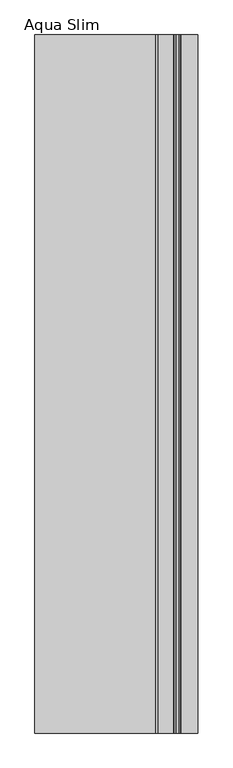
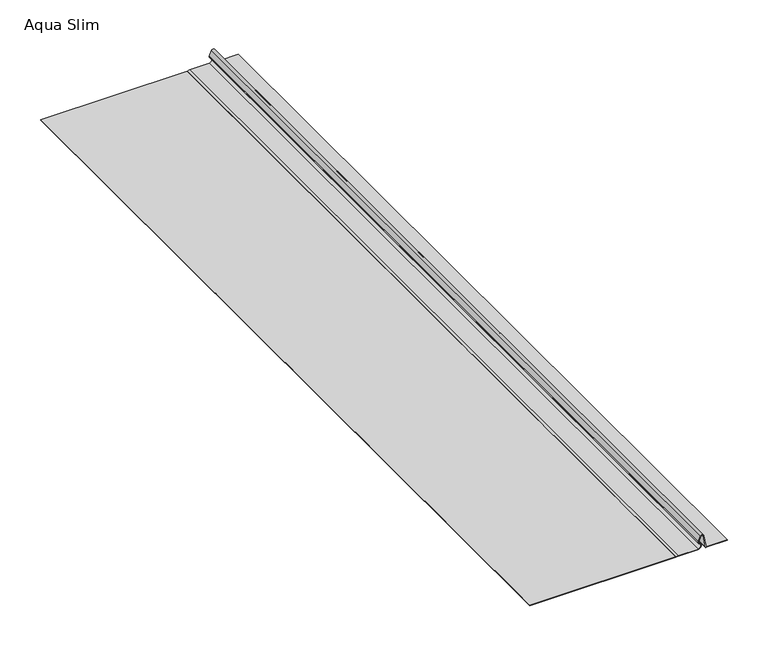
"""IFC4 building model written with IfcOpenShell, lengths in millimetres: proxy geometry, AQUAPLAST - Panel Dachowy i Elewacyjny Aqua Slim : Aqua Slim."""

from ifc_helpers import new_model, si_unit, point, frame, frame_2d, origin, origin_with_axes, place, context, project, spatial, polyline, circle_curve, trimmed, segment, composite_curve, outline, extrude, source, transform, mapped, element, save


def aqua_slim_f305789a(model_context):
    return source(origin(), model_context, "Body", "SweptSolid", [
        extrude(outline(composite_curve([segment(polyline([(0.8, 168.4), (0.8, 138.958412)]), True, "CONTINUOUS"), segment(trimmed(circle_curve(frame_2d((1.4640676, 138.958412)), 0.6640676), [point((0.8, 138.958412))], [point((1.3501315, 138.3041916))], True, "CARTESIAN"), True, "CONTINUOUS"), segment(polyline([(1.3501315, 138.3041916), (18.7653554, 135.2712349)]), True, "CONTINUOUS"), segment(trimmed(circle_curve(frame_2d((18.1818617, 132.6281389)), 2.7067363), [point((18.7653554, 135.2712349))], [point((19.5352298, 130.2840366))], False, "CARTESIAN"), True, "CONTINUOUS"), segment(polyline([(19.5352298, 130.2840366), (12.1941629, 127.3237764)]), True, "CONTINUOUS"), segment(trimmed(circle_curve(frame_2d((11.2676679, 129.6213657)), 2.4773594), [point((12.1941629, 127.3237764))], [point((9.0024093, 128.6184133))], False, "CARTESIAN"), True, "CONTINUOUS"), segment(trimmed(circle_curve(frame_2d((5.4667311, 127.0529775)), 3.8667311), [point((9.0024093, 128.6184133))], [point((1.6, 127.0529775))], True, "CARTESIAN"), True, "CONTINUOUS"), segment(polyline([(1.6, 127.0529775), (1.6, 99.2000503), (0.8, 95.7000503), (0.0, 95.7000503), (0.8, 99.2000503), (0.8, 126.8938021)]), True, "CONTINUOUS"), segment(trimmed(circle_curve(frame_2d((5.5014361, 126.8938021)), 4.7014361), [point((0.8, 126.8938021))], [point((9.7513874, 128.9041293))], False, "CARTESIAN"), True, "CONTINUOUS"), segment(trimmed(circle_curve(frame_2d((11.2676679, 129.6213657)), 1.6773594), [point((9.7513874, 128.9041293))], [point((11.8934079, 128.0650932))], True, "CARTESIAN"), True, "CONTINUOUS"), segment(polyline([(11.8934079, 128.0650932), (19.1352298, 130.9768569)]), True, "CONTINUOUS"), segment(trimmed(circle_curve(frame_2d((18.1818617, 132.6281389)), 1.9067363), [point((19.1352298, 130.9768569))], [point((18.4803326, 134.5113697))], True, "CARTESIAN"), True, "CONTINUOUS"), segment(polyline([(18.4803326, 134.5113697), (0.6241817, 137.3413691)]), True, "CONTINUOUS"), segment(trimmed(circle_curve(frame_2d((0.7400208, 138.0722673)), 0.7400208), [point((0.6241817, 137.3413691))], [point((0.0, 138.0722673))], False, "CARTESIAN"), True, "CONTINUOUS"), segment(polyline([(0.0, 138.0722673), (0.0, 168.4), (0.8, 168.4)]), True, "CONTINUOUS")], self_intersect=False)), frame((0.0, 0.0, 0.0), z_axis=(0.0, 1.0, 0.0), x_axis=(0.0, 0.0, 1.0)), (0.0, 0.0, 1.0), 1200.0),
        extrude(outline(polyline([(95.7000503, 1200.0), (95.7000503, 0.0), (-111.6, 0.0), (-111.6, 1200.0), (95.7000503, 1200.0)])), origin_with_axes(), (0.0, 0.0, 1.0), 0.8),
    ])


if __name__ == "__main__":
    model = new_model("IFC4")
    model_context = context("Model", 3, world=origin())
    ifc_project = project(units=[si_unit("LENGTHUNIT", "METRE", prefix="MILLI")], contexts=[model_context])
    site = spatial("IfcSite", under=ifc_project)
    building = spatial("IfcBuilding", under=site)
    placement = place(None, origin())
    aqua_slim_shape = aqua_slim_f305789a(model_context)
    element("IfcBuildingElementProxy", 1, Name="AQUAPLAST - Panel Dachowy i Elewacyjny Aqua Slim : Aqua Slim", ObjectType="AQUAPLAST - Panel Dachowy i Elewacyjny Aqua Slim : Aqua Slim", at=placement, inside=building, context=model_context, shape_type="MappedRepresentation", body=[
        mapped(aqua_slim_shape, transform((0.0, 0.0, 0.0), x_axis=(1.0, 0.0, 0.0), y_axis=(0.0, 1.0, 0.0), z_axis=(0.0, 0.0, 1.0))),
    ])
    save(model, "model.ifc")
